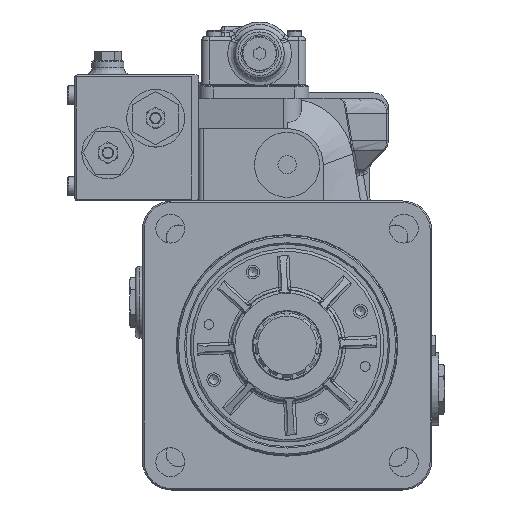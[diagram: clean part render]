
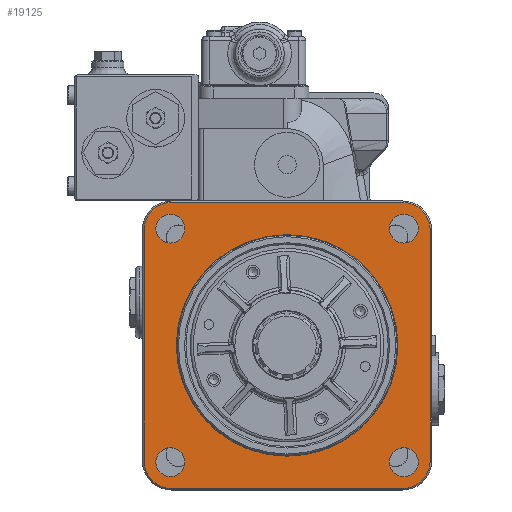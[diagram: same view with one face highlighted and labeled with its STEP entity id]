
A CAD part, top view. The second image highlights one B-rep face of the part: STEP entity #19125.
In plain terms, the highlighted planar face has unit normal (0, 0, 1).
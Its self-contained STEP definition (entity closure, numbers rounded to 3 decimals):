
#18891=CARTESIAN_POINT('',(76.6,0.,23.));
#18892=VERTEX_POINT('',#18891);
#18893=CARTESIAN_POINT('',(0.0,0.0,23.));
#18894=DIRECTION('',(0.0,0.0,1.0));
#18895=DIRECTION('',(-1.0,0.0,0.0));
#18896=AXIS2_PLACEMENT_3D('',#18893,#18894,#18895);
#18897=CIRCLE('',#18896,76.6);
#18898=EDGE_CURVE('',#18892,#18892,#18897,.T.);
#19003=CARTESIAN_POINT('',(0.,0.,23.));
#19004=DIRECTION('',(0.0,0.0,1.0));
#19005=DIRECTION('',(1.0,0.0,0.0));
#19006=AXIS2_PLACEMENT_3D('',#19003,#19004,#19005);
#19007=PLANE('',#19006);
#19008=CARTESIAN_POINT('',(-80.0,99.0,23.));
#19009=VERTEX_POINT('',#19008);
#19010=CARTESIAN_POINT('',(80.0,99.0,23.));
#19011=VERTEX_POINT('',#19010);
#19012=CARTESIAN_POINT('',(-80.0,99.0,23.));
#19013=DIRECTION('',(1.0,0.0,0.0));
#19014=VECTOR('',#19013,160.0);
#19015=LINE('',#19012,#19014);
#19016=EDGE_CURVE('',#19009,#19011,#19015,.T.);
#19017=ORIENTED_EDGE('',*,*,#19016,.F.);
#19018=CARTESIAN_POINT('',(-99.,80.0,23.));
#19019=VERTEX_POINT('',#19018);
#19020=CARTESIAN_POINT('',(-80.,80.,23.));
#19021=DIRECTION('',(0.0,0.0,-1.0));
#19022=DIRECTION('',(0.0,1.0,0.0));
#19023=AXIS2_PLACEMENT_3D('',#19020,#19021,#19022);
#19024=CIRCLE('',#19023,19.0);
#19025=EDGE_CURVE('',#19019,#19009,#19024,.T.);
#19026=ORIENTED_EDGE('',*,*,#19025,.F.);
#19027=CARTESIAN_POINT('',(-99.,-80.0,23.));
#19028=VERTEX_POINT('',#19027);
#19029=CARTESIAN_POINT('',(-99.,-80.0,23.));
#19030=DIRECTION('',(0.0,1.0,0.0));
#19031=VECTOR('',#19030,160.0);
#19032=LINE('',#19029,#19031);
#19033=EDGE_CURVE('',#19028,#19019,#19032,.T.);
#19034=ORIENTED_EDGE('',*,*,#19033,.F.);
#19035=CARTESIAN_POINT('',(-80.,-99.0,23.));
#19036=VERTEX_POINT('',#19035);
#19037=CARTESIAN_POINT('',(-80.,-80.,23.));
#19038=DIRECTION('',(0.0,0.0,-1.0));
#19039=DIRECTION('',(-1.0,0.0,0.0));
#19040=AXIS2_PLACEMENT_3D('',#19037,#19038,#19039);
#19041=CIRCLE('',#19040,19.);
#19042=EDGE_CURVE('',#19036,#19028,#19041,.T.);
#19043=ORIENTED_EDGE('',*,*,#19042,.F.);
#19044=CARTESIAN_POINT('',(80.,-99.,23.));
#19045=VERTEX_POINT('',#19044);
#19046=CARTESIAN_POINT('',(80.,-99.,23.));
#19047=DIRECTION('',(-1.0,0.0,0.0));
#19048=VECTOR('',#19047,160.);
#19049=LINE('',#19046,#19048);
#19050=EDGE_CURVE('',#19045,#19036,#19049,.T.);
#19051=ORIENTED_EDGE('',*,*,#19050,.F.);
#19052=CARTESIAN_POINT('',(99.,-80.0,23.));
#19053=VERTEX_POINT('',#19052);
#19054=CARTESIAN_POINT('',(80.,-80.,23.));
#19055=DIRECTION('',(0.0,0.0,-1.0));
#19056=DIRECTION('',(0.0,-1.0,0.0));
#19057=AXIS2_PLACEMENT_3D('',#19054,#19055,#19056);
#19058=CIRCLE('',#19057,19.);
#19059=EDGE_CURVE('',#19053,#19045,#19058,.T.);
#19060=ORIENTED_EDGE('',*,*,#19059,.F.);
#19061=CARTESIAN_POINT('',(99.,80.0,23.));
#19062=VERTEX_POINT('',#19061);
#19063=CARTESIAN_POINT('',(99.,80.0,23.));
#19064=DIRECTION('',(0.0,-1.0,0.0));
#19065=VECTOR('',#19064,160.0);
#19066=LINE('',#19063,#19065);
#19067=EDGE_CURVE('',#19062,#19053,#19066,.T.);
#19068=ORIENTED_EDGE('',*,*,#19067,.F.);
#19069=CARTESIAN_POINT('',(80.,80.,23.));
#19070=DIRECTION('',(0.0,0.0,-1.0));
#19071=DIRECTION('',(1.0,0.0,0.0));
#19072=AXIS2_PLACEMENT_3D('',#19069,#19070,#19071);
#19073=CIRCLE('',#19072,19.0);
#19074=EDGE_CURVE('',#19011,#19062,#19073,.T.);
#19075=ORIENTED_EDGE('',*,*,#19074,.F.);
#19076=EDGE_LOOP('',(#19017,#19026,#19034,#19043,#19051,#19060,#19068,#19075));
#19077=FACE_OUTER_BOUND('',#19076,.T.);
#19078=CARTESIAN_POINT('',(90.8,-80.8,23.));
#19079=VERTEX_POINT('',#19078);
#19080=CARTESIAN_POINT('',(80.8,-80.8,23.));
#19081=DIRECTION('',(0.0,0.0,-1.0));
#19082=DIRECTION('',(-1.0,0.0,0.0));
#19083=AXIS2_PLACEMENT_3D('',#19080,#19081,#19082);
#19084=CIRCLE('',#19083,10.0);
#19085=EDGE_CURVE('',#19079,#19079,#19084,.T.);
#19086=ORIENTED_EDGE('',*,*,#19085,.T.);
#19087=EDGE_LOOP('',(#19086));
#19088=FACE_BOUND('',#19087,.T.);
#19089=CARTESIAN_POINT('',(-70.8,80.8,23.));
#19090=VERTEX_POINT('',#19089);
#19091=CARTESIAN_POINT('',(-80.8,80.8,23.));
#19092=DIRECTION('',(0.0,0.0,-1.0));
#19093=DIRECTION('',(-1.0,0.0,0.0));
#19094=AXIS2_PLACEMENT_3D('',#19091,#19092,#19093);
#19095=CIRCLE('',#19094,10.0);
#19096=EDGE_CURVE('',#19090,#19090,#19095,.T.);
#19097=ORIENTED_EDGE('',*,*,#19096,.T.);
#19098=EDGE_LOOP('',(#19097));
#19099=FACE_BOUND('',#19098,.T.);
#19100=CARTESIAN_POINT('',(90.8,80.8,23.));
#19101=VERTEX_POINT('',#19100);
#19102=CARTESIAN_POINT('',(80.8,80.8,23.));
#19103=DIRECTION('',(0.0,0.0,-1.0));
#19104=DIRECTION('',(-1.0,0.0,0.0));
#19105=AXIS2_PLACEMENT_3D('',#19102,#19103,#19104);
#19106=CIRCLE('',#19105,10.0);
#19107=EDGE_CURVE('',#19101,#19101,#19106,.T.);
#19108=ORIENTED_EDGE('',*,*,#19107,.T.);
#19109=EDGE_LOOP('',(#19108));
#19110=FACE_BOUND('',#19109,.T.);
#19111=CARTESIAN_POINT('',(-70.8,-80.8,23.));
#19112=VERTEX_POINT('',#19111);
#19113=CARTESIAN_POINT('',(-80.8,-80.8,23.));
#19114=DIRECTION('',(0.0,0.0,-1.0));
#19115=DIRECTION('',(-1.0,0.0,0.0));
#19116=AXIS2_PLACEMENT_3D('',#19113,#19114,#19115);
#19117=CIRCLE('',#19116,10.0);
#19118=EDGE_CURVE('',#19112,#19112,#19117,.T.);
#19119=ORIENTED_EDGE('',*,*,#19118,.T.);
#19120=EDGE_LOOP('',(#19119));
#19121=FACE_BOUND('',#19120,.T.);
#19122=ORIENTED_EDGE('',*,*,#18898,.F.);
#19123=EDGE_LOOP('',(#19122));
#19124=FACE_BOUND('',#19123,.T.);
#19125=ADVANCED_FACE('',(#19077,#19088,#19099,#19110,#19121,#19124),#19007,.T.);
